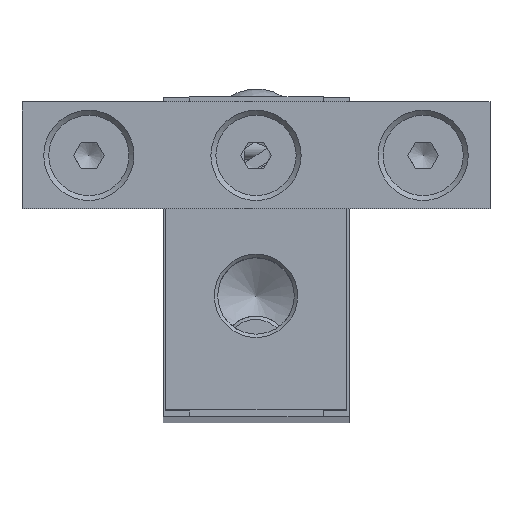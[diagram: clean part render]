
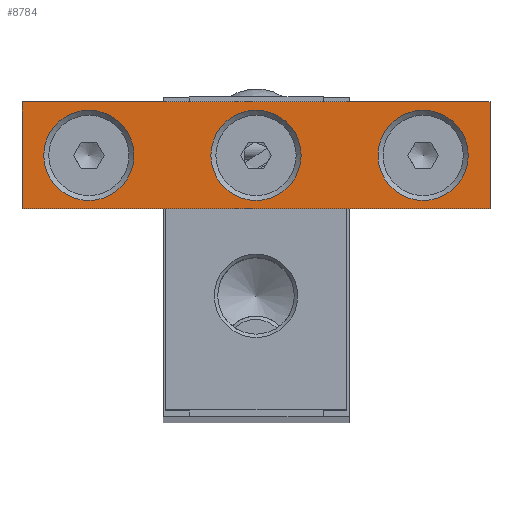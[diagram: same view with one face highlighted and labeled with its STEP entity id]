
A CAD part, top view. The second image highlights one B-rep face of the part: STEP entity #8784.
In plain terms, the highlighted planar face has unit normal (0, 0, 1).
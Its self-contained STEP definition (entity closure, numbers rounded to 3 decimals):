
#627=LINE('',#16675,#1050);
#660=LINE('',#16843,#1083);
#663=LINE('',#16847,#1086);
#665=LINE('',#16850,#1088);
#1050=VECTOR('',#12147,10.);
#1083=VECTOR('',#12318,10.);
#1086=VECTOR('',#12323,10.);
#1088=VECTOR('',#12327,10.);
#1386=FACE_BOUND('',#2311,.T.);
#1387=FACE_BOUND('',#2312,.T.);
#1388=FACE_BOUND('',#2313,.T.);
#1773=FACE_OUTER_BOUND('',#2310,.T.);
#2310=EDGE_LOOP('',(#7381,#7382,#7383,#7384));
#2311=EDGE_LOOP('',(#7385));
#2312=EDGE_LOOP('',(#7386));
#2313=EDGE_LOOP('',(#7387));
#2985=CIRCLE('',#9911,6.75);
#2987=CIRCLE('',#9915,6.75);
#2990=CIRCLE('',#9920,6.75);
#3806=VERTEX_POINT('',#16672);
#3807=VERTEX_POINT('',#16674);
#3850=VERTEX_POINT('',#16840);
#3851=VERTEX_POINT('',#16842);
#3854=VERTEX_POINT('',#16858);
#3856=VERTEX_POINT('',#16866);
#3859=VERTEX_POINT('',#16876);
#4980=EDGE_CURVE('',#3807,#3806,#627,.T.);
#5055=EDGE_CURVE('',#3851,#3850,#660,.T.);
#5058=EDGE_CURVE('',#3850,#3807,#663,.T.);
#5060=EDGE_CURVE('',#3806,#3851,#665,.T.);
#5064=EDGE_CURVE('',#3854,#3854,#2985,.T.);
#5068=EDGE_CURVE('',#3856,#3856,#2987,.T.);
#5073=EDGE_CURVE('',#3859,#3859,#2990,.T.);
#7381=ORIENTED_EDGE('',*,*,#5055,.T.);
#7382=ORIENTED_EDGE('',*,*,#5058,.T.);
#7383=ORIENTED_EDGE('',*,*,#4980,.T.);
#7384=ORIENTED_EDGE('',*,*,#5060,.T.);
#7385=ORIENTED_EDGE('',*,*,#5068,.F.);
#7386=ORIENTED_EDGE('',*,*,#5064,.F.);
#7387=ORIENTED_EDGE('',*,*,#5073,.F.);
#7914=PLANE('',#9919);
#8784=ADVANCED_FACE('',(#1773,#1386,#1387,#1388),#7914,.T.);
#9911=AXIS2_PLACEMENT_3D('',#16859,#12337,#12338);
#9915=AXIS2_PLACEMENT_3D('',#16867,#12347,#12348);
#9919=AXIS2_PLACEMENT_3D('',#16875,#12357,#12358);
#9920=AXIS2_PLACEMENT_3D('',#16877,#12359,#12360);
#12147=DIRECTION('',(-1.,0.,0.));
#12318=DIRECTION('',(1.,0.,0.));
#12323=DIRECTION('',(0.,1.,0.));
#12327=DIRECTION('',(0.,-1.,0.));
#12337=DIRECTION('center_axis',(0.,0.,
1.));
#12338=DIRECTION('ref_axis',(-1.,0.,0.));
#12347=DIRECTION('center_axis',(0.,0.,
1.));
#12348=DIRECTION('ref_axis',(-1.,0.,0.));
#12357=DIRECTION('center_axis',(0.,0.,
1.));
#12358=DIRECTION('ref_axis',(1.,0.,0.));
#12359=DIRECTION('center_axis',(0.,0.,
1.));
#12360=DIRECTION('ref_axis',(-1.,0.,0.));
#16672=CARTESIAN_POINT('',(-35.05,23.1,306.));
#16674=CARTESIAN_POINT('',(34.95,23.1,306.));
#16675=CARTESIAN_POINT('',(34.95,23.1,306.));
#16840=CARTESIAN_POINT('',(34.95,7.1,306.));
#16842=CARTESIAN_POINT('',(-35.05,7.1,306.));
#16843=CARTESIAN_POINT('',(-35.05,7.1,306.));
#16847=CARTESIAN_POINT('',(34.95,7.1,306.));
#16850=CARTESIAN_POINT('',(-35.05,23.1,306.));
#16858=CARTESIAN_POINT('',(-18.3,15.1,306.));
#16859=CARTESIAN_POINT('Origin',(-25.05,15.1,306.));
#16866=CARTESIAN_POINT('',(6.7,15.1,306.));
#16867=CARTESIAN_POINT('Origin',(-0.05,15.1,306.));
#16875=CARTESIAN_POINT('Origin',(-0.05,15.1,306.));
#16876=CARTESIAN_POINT('',(31.7,15.1,306.));
#16877=CARTESIAN_POINT('Origin',(24.95,15.1,306.));
